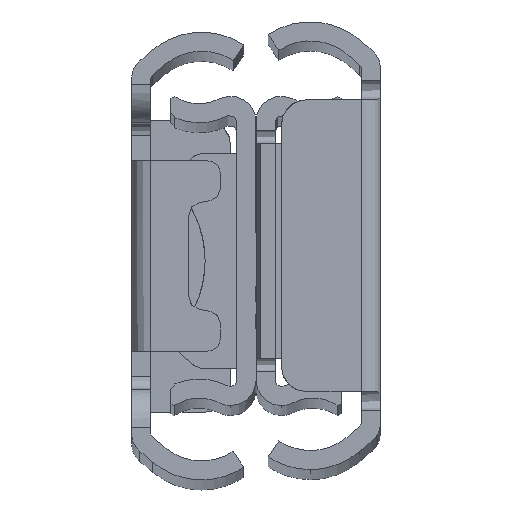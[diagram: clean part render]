
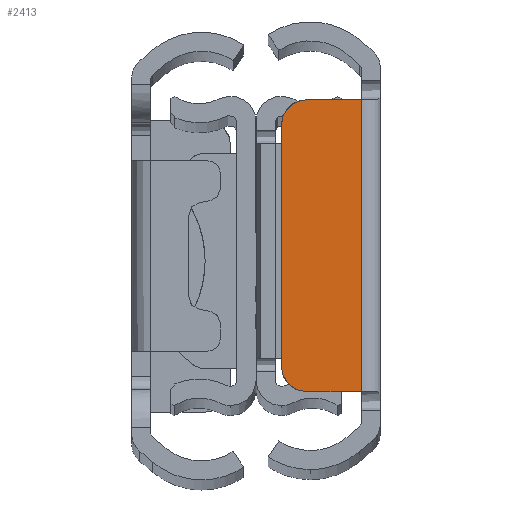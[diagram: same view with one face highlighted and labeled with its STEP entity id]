
A CAD part, top view. The second image highlights one B-rep face of the part: STEP entity #2413.
In plain terms, the highlighted planar face has unit normal (0, 0, 1) as drawn and (0, 0, -1) by its records, which use the part's own axes.
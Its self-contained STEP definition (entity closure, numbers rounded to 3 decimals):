
#69 = CARTESIAN_POINT ( 'NONE',  ( 218.1, 11.5, 50.8 ) ) ;
#117 = EDGE_CURVE ( 'NONE', #2956, #3531, #496, .T. ) ;
#121 = VERTEX_POINT ( 'NONE', #5087 ) ;
#168 = EDGE_CURVE ( 'NONE', #6045, #2956, #6150, .T. ) ;
#181 = CARTESIAN_POINT ( 'NONE',  ( 213.8, 11.5, 50.8 ) ) ;
#241 = CARTESIAN_POINT ( 'NONE',  ( 211.8, 9.762, 50.8 ) ) ;
#244 = AXIS2_PLACEMENT_3D ( 'NONE', #1895, #3420, #6406 ) ;
#249 = ORIENTED_EDGE ( 'NONE', *, *, #2841, .F. ) ;
#329 = EDGE_CURVE ( 'NONE', #3531, #2887, #2852, .T. ) ;
#496 = B_SPLINE_CURVE_WITH_KNOTS ( 'NONE', 3,
 ( #574, #4558, #5053, #3074 ),
 .UNSPECIFIED., .F., .F.,
 ( 4, 4 ),
 ( 0., 1. ),
 .UNSPECIFIED. ) ;
#574 = CARTESIAN_POINT ( 'NONE',  ( 213.8, -11.5, 50.8 ) ) ;
#706 = CARTESIAN_POINT ( 'NONE',  ( 213.8, -11.5, 50.8 ) ) ;
#1170 = CARTESIAN_POINT ( 'NONE',  ( 215.233, 11.5, 50.8 ) ) ;
#1403 = ORIENTED_EDGE ( 'NONE', *, *, #1957, .F. ) ;
#1433 = FACE_OUTER_BOUND ( 'NONE', #4977, .T. ) ;
#1545 = B_SPLINE_CURVE_WITH_KNOTS ( 'NONE', 3,
 ( #3111, #3609, #1170, #181 ),
 .UNSPECIFIED., .F., .F.,
 ( 4, 4 ),
 ( 0., 1. ),
 .UNSPECIFIED. ) ;
#1558 = CARTESIAN_POINT ( 'NONE',  ( 212.052, -10.507, 50.8 ) ) ;
#1569 = VERTEX_POINT ( 'NONE', #3759 ) ;
#1589 = CARTESIAN_POINT ( 'NONE',  ( 212.571, -11.099, 50.8 ) ) ;
#1821 = CARTESIAN_POINT ( 'NONE',  ( 213.277, 11.448, 50.8 ) ) ;
#1850 = CARTESIAN_POINT ( 'NONE',  ( 213.538, 11.5, 50.8 ) ) ;
#1886 = B_SPLINE_CURVE_WITH_KNOTS ( 'NONE', 3,
 ( #2024, #2605, #5057, #6134 ),
 .UNSPECIFIED., .F., .F.,
 ( 4, 4 ),
 ( 0., 1. ),
 .UNSPECIFIED. ) ;
#1895 = CARTESIAN_POINT ( 'NONE',  ( 214.4, 13.74, 50.8 ) ) ;
#1957 = EDGE_CURVE ( 'NONE', #2887, #1569, #1545, .T. ) ;
#2024 = CARTESIAN_POINT ( 'NONE',  ( 211.8, 9.5, 50.8 ) ) ;
#2053 = CARTESIAN_POINT ( 'NONE',  ( 211.8, -9.762, 50.8 ) ) ;
#2058 = B_SPLINE_CURVE_WITH_KNOTS ( 'NONE', 3,
 ( #5412, #1850, #1821, #3766, #4882, #4785, #2278, #4815, #241, #5864 ),
 .UNSPECIFIED., .F., .F.,
 ( 4, 2, 2, 2, 4 ),
 ( 0., 0.25, 0.5, 0.75, 1. ),
 .UNSPECIFIED. ) ;
#2278 = CARTESIAN_POINT ( 'NONE',  ( 212.052, 10.507, 50.8 ) ) ;
#2413 = ADVANCED_FACE ( 'NONE', ( #1433 ), #4409, .F. ) ;
#2605 = CARTESIAN_POINT ( 'NONE',  ( 211.8, 3.167, 50.8 ) ) ;
#2841 = EDGE_CURVE ( 'NONE', #121, #6045, #1886, .T. ) ;
#2852 = B_SPLINE_CURVE_WITH_KNOTS ( 'NONE', 3,
 ( #5860, #6421, #4976, #3498 ),
 .UNSPECIFIED., .F., .F.,
 ( 4, 4 ),
 ( 0., 1. ),
 .UNSPECIFIED. ) ;
#2887 = VERTEX_POINT ( 'NONE', #69 ) ;
#2956 = VERTEX_POINT ( 'NONE', #4727 ) ;
#3074 = CARTESIAN_POINT ( 'NONE',  ( 218.1, -11.5, 50.8 ) ) ;
#3111 = CARTESIAN_POINT ( 'NONE',  ( 218.1, 11.5, 50.8 ) ) ;
#3420 = DIRECTION ( 'NONE',  ( 0., 0., 1. ) ) ;
#3435 = ORIENTED_EDGE ( 'NONE', *, *, #329, .F. ) ;
#3486 = CARTESIAN_POINT ( 'NONE',  ( 218.1, -11.5, 50.8 ) ) ;
#3498 = CARTESIAN_POINT ( 'NONE',  ( 218.1, 11.5, 50.8 ) ) ;
#3518 = ORIENTED_EDGE ( 'NONE', *, *, #168, .F. ) ;
#3531 = VERTEX_POINT ( 'NONE', #3486 ) ;
#3572 = CARTESIAN_POINT ( 'NONE',  ( 212.201, -10.729, 50.8 ) ) ;
#3601 = CARTESIAN_POINT ( 'NONE',  ( 212.793, -11.248, 50.8 ) ) ;
#3609 = CARTESIAN_POINT ( 'NONE',  ( 216.667, 11.5, 50.8 ) ) ;
#3759 = CARTESIAN_POINT ( 'NONE',  ( 213.8, 11.5, 50.8 ) ) ;
#3766 = CARTESIAN_POINT ( 'NONE',  ( 212.793, 11.248, 50.8 ) ) ;
#3792 = CARTESIAN_POINT ( 'NONE',  ( 213.538, -11.5, 50.8 ) ) ;
#4061 = CARTESIAN_POINT ( 'NONE',  ( 211.852, -10.023, 50.8 ) ) ;
#4409 = PLANE ( 'NONE',  #244 ) ;
#4558 = CARTESIAN_POINT ( 'NONE',  ( 215.233, -11.5, 50.8 ) ) ;
#4727 = CARTESIAN_POINT ( 'NONE',  ( 213.8, -11.5, 50.8 ) ) ;
#4785 = CARTESIAN_POINT ( 'NONE',  ( 212.201, 10.729, 50.8 ) ) ;
#4799 = ORIENTED_EDGE ( 'NONE', *, *, #5915, .F. ) ;
#4815 = CARTESIAN_POINT ( 'NONE',  ( 211.852, 10.023, 50.8 ) ) ;
#4882 = CARTESIAN_POINT ( 'NONE',  ( 212.571, 11.099, 50.8 ) ) ;
#4976 = CARTESIAN_POINT ( 'NONE',  ( 218.1, 3.833, 50.8 ) ) ;
#4977 = EDGE_LOOP ( 'NONE', ( #249, #4799, #1403, #3435, #5592, #3518 ) ) ;
#5053 = CARTESIAN_POINT ( 'NONE',  ( 216.667, -11.5, 50.8 ) ) ;
#5057 = CARTESIAN_POINT ( 'NONE',  ( 211.8, -3.167, 50.8 ) ) ;
#5087 = CARTESIAN_POINT ( 'NONE',  ( 211.8, 9.5, 50.8 ) ) ;
#5237 = CARTESIAN_POINT ( 'NONE',  ( 211.8, -9.5, 50.8 ) ) ;
#5412 = CARTESIAN_POINT ( 'NONE',  ( 213.8, 11.5, 50.8 ) ) ;
#5592 = ORIENTED_EDGE ( 'NONE', *, *, #117, .F. ) ;
#5606 = CARTESIAN_POINT ( 'NONE',  ( 213.277, -11.448, 50.8 ) ) ;
#5860 = CARTESIAN_POINT ( 'NONE',  ( 218.1, -11.5, 50.8 ) ) ;
#5864 = CARTESIAN_POINT ( 'NONE',  ( 211.8, 9.5, 50.8 ) ) ;
#5915 = EDGE_CURVE ( 'NONE', #1569, #121, #2058, .T. ) ;
#6045 = VERTEX_POINT ( 'NONE', #5237 ) ;
#6100 = CARTESIAN_POINT ( 'NONE',  ( 211.8, -9.5, 50.8 ) ) ;
#6134 = CARTESIAN_POINT ( 'NONE',  ( 211.8, -9.5, 50.8 ) ) ;
#6150 = B_SPLINE_CURVE_WITH_KNOTS ( 'NONE', 3,
 ( #6100, #2053, #4061, #1558, #3572, #1589, #3601, #5606, #3792, #706 ),
 .UNSPECIFIED., .F., .F.,
 ( 4, 2, 2, 2, 4 ),
 ( 0., 0.25, 0.5, 0.75, 1. ),
 .UNSPECIFIED. ) ;
#6406 = DIRECTION ( 'NONE',  ( 0., -1., 0. ) ) ;
#6421 = CARTESIAN_POINT ( 'NONE',  ( 218.1, -3.833, 50.8 ) ) ;
